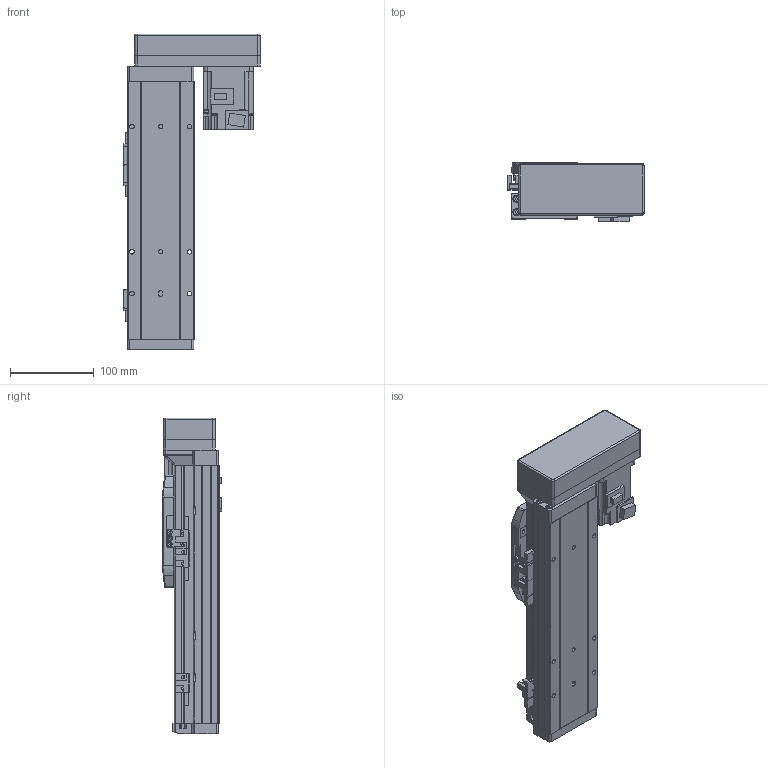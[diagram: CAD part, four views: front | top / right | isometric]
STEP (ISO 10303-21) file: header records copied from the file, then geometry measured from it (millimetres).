
FILE_DESCRIPTION (( 'STEP AP214' ), '1' );
FILE_NAME ('GSH8-150-BL-M20-1.step', '2025-01-07T06:05:07', ( '' ), ( '' ), 'SwSTEP 2.0', 'SolidWorks 2012', '' );
FILE_SCHEMA (( 'AUTOMOTIVE_DESIGN' ));
Length unit declared in the file: millimetre
Products named in the file (5): GSH8-BL-008; HG-KR23_200W_Motor; GSH8-GY-004; GSH8-150-BL-M20-1; GSH8-BL-011-150-M20
Assembly tree (4 placements, depth 2):
  GSH8-150-BL-M20-1
    GSH8-BL-011-150-M20
    GSH8-GY-004
    GSH8-BL-008
    HG-KR23_200W_Motor
Bounding box: 163 x 71.3 x 378.2 mm (x, y, z)
Volume: 1398433.5 mm3; surface area: 296750.6 mm2
Topology: 4 solids, 8 shells, 1088 faces, 2837 edges, 1822 vertices
Faces by surface type: plane 624, cylinder 368, torus 42, cone 26, bspline 24, sphere 4
Entity records: 42739 total; most frequent: CARTESIAN_POINT 9696, DIRECTION 5753, ORIENTED_EDGE 5658, EDGE_CURVE 2829, AXIS2_PLACEMENT_3D 1931, LINE 1891, VECTOR 1891, VERTEX_POINT 1818
